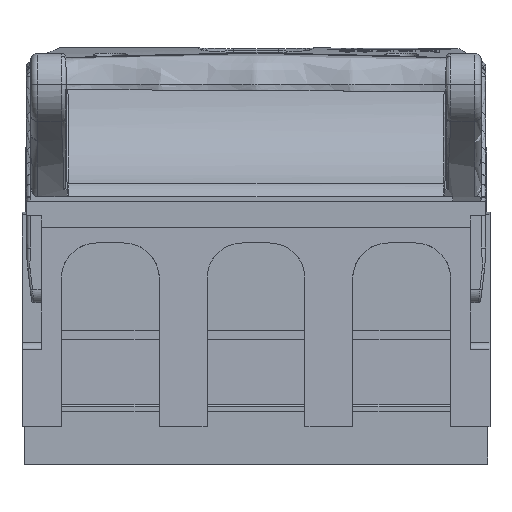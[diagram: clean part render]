
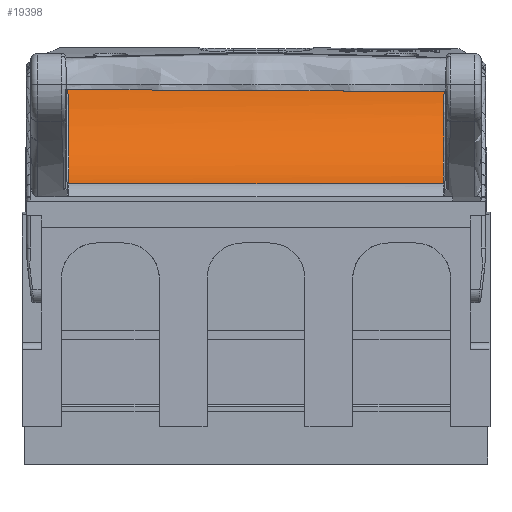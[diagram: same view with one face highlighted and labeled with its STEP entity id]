
A CAD part, left-side view. The second image highlights one B-rep face of the part: STEP entity #19398.
In plain terms, the highlighted cylindrical face has radius 28 mm (diameter 56 mm), a partial arc.
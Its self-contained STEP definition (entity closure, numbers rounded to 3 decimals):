
#14491=CYLINDRICAL_SURFACE('',#67307,28.);
#15381=B_SPLINE_CURVE_WITH_KNOTS('',3,(#96628,#96629,#96630,#96631,#96632,
#96633),.UNSPECIFIED.,.F.,.F.,(4,2,4),(0.,0.5,1.),.UNSPECIFIED.);
#15384=B_SPLINE_CURVE_WITH_KNOTS('',3,(#96671,#96672,#96673,#96674,#96675,
#96676,#96677,#96678,#96679,#96680,#96681,#96682),.UNSPECIFIED.,.F.,.F.,
(4,2,2,2,2,4),(0.,0.25,0.5,0.625,
0.75,1.),.UNSPECIFIED.);
#15389=B_SPLINE_CURVE_WITH_KNOTS('',3,(#96753,#96754,#96755,#96756,#96757,
#96758),.UNSPECIFIED.,.F.,.F.,(4,2,4),(0.,0.5,1.),.UNSPECIFIED.);
#15390=B_SPLINE_CURVE_WITH_KNOTS('',3,(#96777,#96778,#96779,#96780,#96781,
#96782,#96783,#96784,#96785,#96786),.UNSPECIFIED.,.F.,.F.,(4,2,2,2,4),(0.,
0.125,0.25,0.5,1.),.UNSPECIFIED.);
#15418=B_SPLINE_CURVE_WITH_KNOTS('',3,(#97302,#97303,#97304,#97305,#97306,
#97307,#97308,#97309,#97310,#97311,#97312,#97313,#97314),.UNSPECIFIED.,
 .F.,.F.,(4,3,3,3,4),(0.,0.003,0.492,0.787,
1.),.UNSPECIFIED.);
#15422=B_SPLINE_CURVE_WITH_KNOTS('',3,(#97378,#97379,#97380,#97381,#97382,
#97383,#97384,#97385,#97386,#97387,#97388,#97389,#97390),.UNSPECIFIED.,
 .F.,.F.,(4,3,3,3,4),(0.,0.242,0.585,0.997,
1.),.UNSPECIFIED.);
#16423=CIRCLE('',#67201,28.);
#16435=CIRCLE('',#67219,28.);
#19398=ADVANCED_FACE('',(#24067),#14491,.F.);
#24067=FACE_OUTER_BOUND('',#26999,.T.);
#26999=EDGE_LOOP('',(#32724,#32725,#32726,#32727,#32728,#32729,#32730,#32731,
#32732,#32733,#32734,#32735));
#32724=ORIENTED_EDGE('',*,*,#51944,.T.);
#32725=ORIENTED_EDGE('',*,*,#51943,.T.);
#32726=ORIENTED_EDGE('',*,*,#52232,.T.);
#32727=ORIENTED_EDGE('',*,*,#51932,.T.);
#32728=ORIENTED_EDGE('',*,*,#51935,.T.);
#32729=ORIENTED_EDGE('',*,*,#52052,.T.);
#32730=ORIENTED_EDGE('',*,*,#52005,.T.);
#32731=ORIENTED_EDGE('',*,*,#52089,.T.);
#32732=ORIENTED_EDGE('',*,*,#52080,.T.);
#32733=ORIENTED_EDGE('',*,*,#52076,.T.);
#32734=ORIENTED_EDGE('',*,*,#52032,.T.);
#32735=ORIENTED_EDGE('',*,*,#52055,.T.);
#46653=VERTEX_POINT('',#96600);
#46656=VERTEX_POINT('',#96627);
#46657=VERTEX_POINT('',#96670);
#46660=VERTEX_POINT('',#96714);
#46663=VERTEX_POINT('',#96745);
#46665=VERTEX_POINT('',#96787);
#46705=VERTEX_POINT('',#97315);
#46706=VERTEX_POINT('',#97316);
#46723=VERTEX_POINT('',#97377);
#46724=VERTEX_POINT('',#97391);
#46747=VERTEX_POINT('',#97548);
#46749=VERTEX_POINT('',#97558);
#51932=EDGE_CURVE('',#46653,#46656,#15381,.T.);
#51935=EDGE_CURVE('',#46656,#46657,#15384,.T.);
#51943=EDGE_CURVE('',#46663,#46660,#15389,.T.);
#51944=EDGE_CURVE('',#46665,#46663,#15390,.T.);
#52005=EDGE_CURVE('',#46705,#46706,#15418,.T.);
#52032=EDGE_CURVE('',#46724,#46723,#15422,.T.);
#52052=EDGE_CURVE('',#46657,#46705,#58522,.T.);
#52055=EDGE_CURVE('',#46723,#46665,#58525,.T.);
#52076=EDGE_CURVE('',#46747,#46724,#16423,.T.);
#52080=EDGE_CURVE('',#46749,#46747,#58528,.T.);
#52089=EDGE_CURVE('',#46706,#46749,#16435,.T.);
#52232=EDGE_CURVE('',#46660,#46653,#58564,.T.);
#58522=LINE('',#97445,#62624);
#58525=LINE('',#97449,#62627);
#58528=LINE('',#97559,#62630);
#58564=LINE('',#99692,#62667);
#62624=VECTOR('',#74157,1.);
#62627=VECTOR('',#74162,1.);
#62630=VECTOR('',#74219,1.);
#62667=VECTOR('',#74462,1.);
#67201=AXIS2_PLACEMENT_3D('',#97552,#74207,#74208);
#67219=AXIS2_PLACEMENT_3D('',#97577,#74244,#74245);
#67307=AXIS2_PLACEMENT_3D('',#99693,#74463,#74464);
#74157=DIRECTION('',(0.,-1.,0.));
#74162=DIRECTION('',(0.,-1.,0.));
#74207=DIRECTION('',(0.,1.,0.));
#74208=DIRECTION('',(1.,0.,0.));
#74219=DIRECTION('',(0.,1.,0.));
#74244=DIRECTION('',(0.,-1.,0.));
#74245=DIRECTION('',(1.,0.,0.));
#74462=DIRECTION('',(0.,-1.,0.));
#74463=DIRECTION('',(0.,-1.,0.));
#74464=DIRECTION('',(-1.,0.,0.));
#96600=CARTESIAN_POINT('',(-72.065,-42.368,51.447));
#96627=CARTESIAN_POINT('',(-56.26,-42.551,72.673));
#96628=CARTESIAN_POINT('',(-72.065,-42.368,51.447));
#96629=CARTESIAN_POINT('',(-68.838,-42.381,52.96));
#96630=CARTESIAN_POINT('',(-65.395,-42.403,55.335));
#96631=CARTESIAN_POINT('',(-59.509,-42.464,62.391));
#96632=CARTESIAN_POINT('',(-57.088,-42.503,67.111));
#96633=CARTESIAN_POINT('',(-56.26,-42.551,72.673));
#96670=CARTESIAN_POINT('',(-56.014,-43.97,74.971));
#96671=CARTESIAN_POINT('',(-56.26,-42.551,72.673));
#96672=CARTESIAN_POINT('',(-56.227,-42.553,72.89));
#96673=CARTESIAN_POINT('',(-56.198,-42.592,73.106));
#96674=CARTESIAN_POINT('',(-56.144,-42.744,73.536));
#96675=CARTESIAN_POINT('',(-56.115,-42.887,73.793));
#96676=CARTESIAN_POINT('',(-56.09,-43.066,74.048));
#96677=CARTESIAN_POINT('',(-56.081,-43.134,74.135));
#96678=CARTESIAN_POINT('',(-56.065,-43.285,74.311));
#96679=CARTESIAN_POINT('',(-56.054,-43.403,74.437));
#96680=CARTESIAN_POINT('',(-56.04,-43.571,74.606));
#96681=CARTESIAN_POINT('',(-56.028,-43.741,74.765));
#96682=CARTESIAN_POINT('',(-56.014,-43.97,74.971));
#96714=CARTESIAN_POINT('',(-72.065,42.444,51.447));
#96745=CARTESIAN_POINT('',(-56.26,42.626,72.673));
#96753=CARTESIAN_POINT('',(-56.26,42.626,72.673));
#96754=CARTESIAN_POINT('',(-57.088,42.579,67.111));
#96755=CARTESIAN_POINT('',(-59.509,42.539,62.391));
#96756=CARTESIAN_POINT('',(-65.395,42.479,55.335));
#96757=CARTESIAN_POINT('',(-68.838,42.457,52.96));
#96758=CARTESIAN_POINT('',(-72.065,42.444,51.447));
#96777=CARTESIAN_POINT('',(-56.014,44.045,74.971));
#96778=CARTESIAN_POINT('',(-56.021,43.931,74.868));
#96779=CARTESIAN_POINT('',(-56.027,43.831,74.777));
#96780=CARTESIAN_POINT('',(-56.039,43.661,74.617));
#96781=CARTESIAN_POINT('',(-56.042,43.625,74.585));
#96782=CARTESIAN_POINT('',(-56.065,43.353,74.31));
#96783=CARTESIAN_POINT('',(-56.077,43.232,74.176));
#96784=CARTESIAN_POINT('',(-56.142,42.782,73.538));
#96785=CARTESIAN_POINT('',(-56.195,42.63,73.107));
#96786=CARTESIAN_POINT('',(-56.26,42.626,72.673));
#96787=CARTESIAN_POINT('',(-56.014,44.045,74.971));
#97302=CARTESIAN_POINT('',(-56.014,-49.462,74.971));
#97303=CARTESIAN_POINT('',(-56.014,-49.464,74.969));
#97304=CARTESIAN_POINT('',(-56.014,-49.466,74.967));
#97305=CARTESIAN_POINT('',(-56.014,-49.468,74.965));
#97306=CARTESIAN_POINT('',(-56.038,-49.825,74.598));
#97307=CARTESIAN_POINT('',(-56.069,-50.187,74.226));
#97308=CARTESIAN_POINT('',(-56.115,-50.467,73.8));
#97309=CARTESIAN_POINT('',(-56.143,-50.636,73.543));
#97310=CARTESIAN_POINT('',(-56.177,-50.776,73.264));
#97311=CARTESIAN_POINT('',(-56.217,-50.864,72.971));
#97312=CARTESIAN_POINT('',(-56.246,-50.926,72.759));
#97313=CARTESIAN_POINT('',(-56.279,-50.962,72.537));
#97314=CARTESIAN_POINT('',(-56.315,-50.962,72.317));
#97315=CARTESIAN_POINT('',(-56.014,-49.462,74.971));
#97316=CARTESIAN_POINT('',(-56.315,-50.962,72.317));
#97377=CARTESIAN_POINT('',(-56.014,49.538,74.971));
#97378=CARTESIAN_POINT('',(-56.315,51.038,72.317));
#97379=CARTESIAN_POINT('',(-56.275,51.038,72.568));
#97380=CARTESIAN_POINT('',(-56.237,50.991,72.821));
#97381=CARTESIAN_POINT('',(-56.205,50.911,73.059));
#97382=CARTESIAN_POINT('',(-56.16,50.798,73.395));
#97383=CARTESIAN_POINT('',(-56.123,50.616,73.711));
#97384=CARTESIAN_POINT('',(-56.095,50.404,73.998));
#97385=CARTESIAN_POINT('',(-56.06,50.148,74.345));
#97386=CARTESIAN_POINT('',(-56.035,49.845,74.656));
#97387=CARTESIAN_POINT('',(-56.014,49.543,74.965));
#97388=CARTESIAN_POINT('',(-56.014,49.541,74.967));
#97389=CARTESIAN_POINT('',(-56.014,49.54,74.969));
#97390=CARTESIAN_POINT('',(-56.014,49.538,74.971));
#97391=CARTESIAN_POINT('',(-56.315,51.038,72.317));
#97445=CARTESIAN_POINT('',(-56.014,52.038,74.971));
#97449=CARTESIAN_POINT('',(-56.014,52.038,74.971));
#97548=CARTESIAN_POINT('',(-55.974,51.038,75.754));
#97552=CARTESIAN_POINT('',(-83.954,51.038,76.797));
#97558=CARTESIAN_POINT('',(-55.974,-50.962,75.754));
#97559=CARTESIAN_POINT('',(-55.974,52.038,75.754));
#97577=CARTESIAN_POINT('',(-83.954,-50.962,76.797));
#99692=CARTESIAN_POINT('',(-72.065,52.038,51.447));
#99693=CARTESIAN_POINT('',(-83.954,52.038,76.797));
